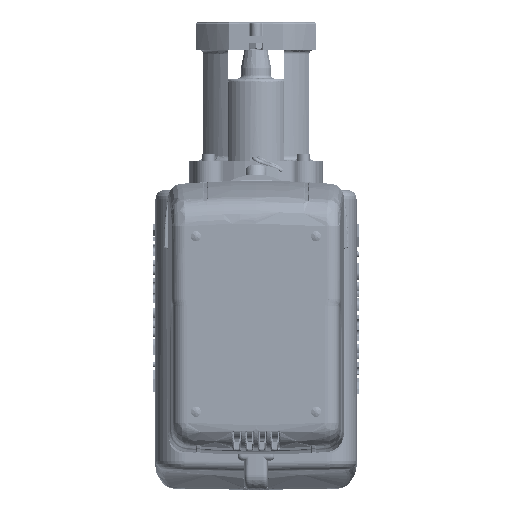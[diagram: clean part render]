
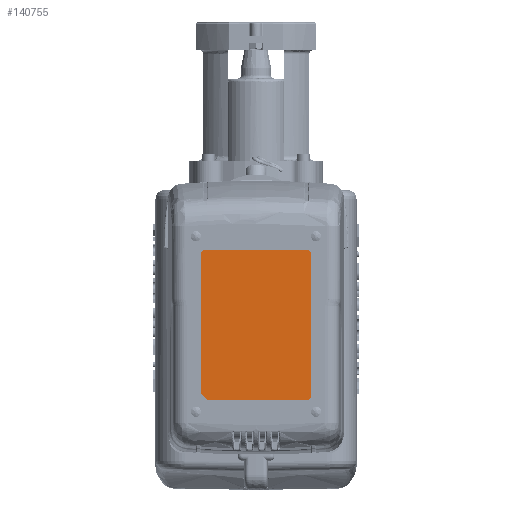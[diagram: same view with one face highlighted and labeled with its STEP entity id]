
A CAD part, left-side view. The second image highlights one B-rep face of the part: STEP entity #140755.
In plain terms, the highlighted planar face has unit normal (-1, 0, 0).
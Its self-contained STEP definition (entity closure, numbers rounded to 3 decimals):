
#4323 = DIRECTION ( 'NONE',  ( 0., 0., -1. ) ) ;
#7244 = VERTEX_POINT ( 'NONE', #192920 ) ;
#8254 = FACE_OUTER_BOUND ( 'NONE', #138141, .T. ) ;
#12101 = CARTESIAN_POINT ( 'NONE',  ( -283.5, -22., -163.7 ) ) ;
#16819 = CARTESIAN_POINT ( 'NONE',  ( -283.5, 24., -100.7 ) ) ;
#26297 = VECTOR ( 'NONE', #199041, 1000. ) ;
#28813 = CARTESIAN_POINT ( 'NONE',  ( -283.5, 24., -130.7 ) ) ;
#40735 = CIRCLE ( 'NONE', #129521, 2. ) ;
#48151 = CARTESIAN_POINT ( 'NONE',  ( -283.5, 22., -98.7 ) ) ;
#54048 = DIRECTION ( 'NONE',  ( 0., 0., 1. ) ) ;
#60195 = CARTESIAN_POINT ( 'NONE',  ( -283.5, 24., -160.7 ) ) ;
#62085 = EDGE_CURVE ( 'NONE', #196689, #74915, #66959, .T. ) ;
#62524 = CIRCLE ( 'NONE', #88646, 2. ) ;
#66959 = LINE ( 'NONE', #194081, #121773 ) ;
#67369 = CIRCLE ( 'NONE', #156113, 2. ) ;
#67794 = CARTESIAN_POINT ( 'NONE',  ( -283.5, 22.5, -162.2 ) ) ;
#68268 = DIRECTION ( 'NONE',  ( 1., 0., 0. ) ) ;
#74915 = VERTEX_POINT ( 'NONE', #48151 ) ;
#78633 = ORIENTED_EDGE ( 'NONE', *, *, #62085, .T. ) ;
#79117 = VECTOR ( 'NONE', #114704, 1000. ) ;
#86434 = LINE ( 'NONE', #67794, #79117 ) ;
#88184 = LINE ( 'NONE', #105016, #26297 ) ;
#88646 = AXIS2_PLACEMENT_3D ( 'NONE', #208174, #68268, #231627 ) ;
#101046 = ORIENTED_EDGE ( 'NONE', *, *, #247664, .T. ) ;
#105016 = CARTESIAN_POINT ( 'NONE',  ( -283.5, -0.5, -163.7 ) ) ;
#111991 = EDGE_CURVE ( 'NONE', #7244, #279269, #88184, .T. ) ;
#114704 = DIRECTION ( 'NONE',  ( 0., 0.707, 0.707 ) ) ;
#115212 = ORIENTED_EDGE ( 'NONE', *, *, #124396, .T. ) ;
#119227 = CARTESIAN_POINT ( 'NONE',  ( -283.5, -22., -161.7 ) ) ;
#121773 = VECTOR ( 'NONE', #146976, 1000. ) ;
#124396 = EDGE_CURVE ( 'NONE', #281117, #149478, #290875, .T. ) ;
#129521 = AXIS2_PLACEMENT_3D ( 'NONE', #119227, #282431, #142630 ) ;
#133845 = DIRECTION ( 'NONE',  ( 1., 0., 0. ) ) ;
#135978 = CARTESIAN_POINT ( 'NONE',  ( -283.5, -24., -131.2 ) ) ;
#137569 = ORIENTED_EDGE ( 'NONE', *, *, #241979, .F. ) ;
#138141 = EDGE_LOOP ( 'NONE', ( #262452, #213036, #153349, #115212, #152045, #78633, #137569, #101046 ) ) ;
#140755 = ADVANCED_FACE ( 'NONE', ( #8254 ), #146798, .F. ) ;
#141511 = EDGE_CURVE ( 'NONE', #281117, #279269, #40735, .T. ) ;
#142630 = DIRECTION ( 'NONE',  ( 0., 1., 0. ) ) ;
#146798 = PLANE ( 'NONE',  #209395 ) ;
#146976 = DIRECTION ( 'NONE',  ( 0., 1., 0. ) ) ;
#149478 = VERTEX_POINT ( 'NONE', #206942 ) ;
#152045 = ORIENTED_EDGE ( 'NONE', *, *, #236143, .F. ) ;
#153349 = ORIENTED_EDGE ( 'NONE', *, *, #141511, .F. ) ;
#156113 = AXIS2_PLACEMENT_3D ( 'NONE', #273677, #133845, #297090 ) ;
#163700 = VECTOR ( 'NONE', #4323, 1000. ) ;
#164741 = VERTEX_POINT ( 'NONE', #60195 ) ;
#166785 = VECTOR ( 'NONE', #253380, 1000. ) ;
#171449 = CARTESIAN_POINT ( 'NONE',  ( -283.5, -24., -161.7 ) ) ;
#179539 = EDGE_CURVE ( 'NONE', #7244, #164741, #86434, .T. ) ;
#192920 = CARTESIAN_POINT ( 'NONE',  ( -283.5, 21., -163.7 ) ) ;
#193919 = DIRECTION ( 'NONE',  ( 1., 0., 0. ) ) ;
#194081 = CARTESIAN_POINT ( 'NONE',  ( -283.5, 0., -98.7 ) ) ;
#196689 = VERTEX_POINT ( 'NONE', #302268 ) ;
#199041 = DIRECTION ( 'NONE',  ( 0., -1., 0. ) ) ;
#202154 = VERTEX_POINT ( 'NONE', #16819 ) ;
#206942 = CARTESIAN_POINT ( 'NONE',  ( -283.5, -24., -100.7 ) ) ;
#208174 = CARTESIAN_POINT ( 'NONE',  ( -283.5, -22., -100.7 ) ) ;
#209395 = AXIS2_PLACEMENT_3D ( 'NONE', #263188, #193919, #54048 ) ;
#213036 = ORIENTED_EDGE ( 'NONE', *, *, #111991, .T. ) ;
#231627 = DIRECTION ( 'NONE',  ( 0., 1., 0. ) ) ;
#236143 = EDGE_CURVE ( 'NONE', #196689, #149478, #62524, .T. ) ;
#241979 = EDGE_CURVE ( 'NONE', #202154, #74915, #67369, .T. ) ;
#247664 = EDGE_CURVE ( 'NONE', #202154, #164741, #287873, .T. ) ;
#253380 = DIRECTION ( 'NONE',  ( 0., 0., 1. ) ) ;
#262452 = ORIENTED_EDGE ( 'NONE', *, *, #179539, .F. ) ;
#263188 = CARTESIAN_POINT ( 'NONE',  ( -283.5, 24., -163.7 ) ) ;
#273677 = CARTESIAN_POINT ( 'NONE',  ( -283.5, 22., -100.7 ) ) ;
#279269 = VERTEX_POINT ( 'NONE', #12101 ) ;
#281117 = VERTEX_POINT ( 'NONE', #171449 ) ;
#282431 = DIRECTION ( 'NONE',  ( 1., 0., 0. ) ) ;
#287873 = LINE ( 'NONE', #28813, #163700 ) ;
#290875 = LINE ( 'NONE', #135978, #166785 ) ;
#297090 = DIRECTION ( 'NONE',  ( 0., 1., 0. ) ) ;
#302268 = CARTESIAN_POINT ( 'NONE',  ( -283.5, -22., -98.7 ) ) ;
